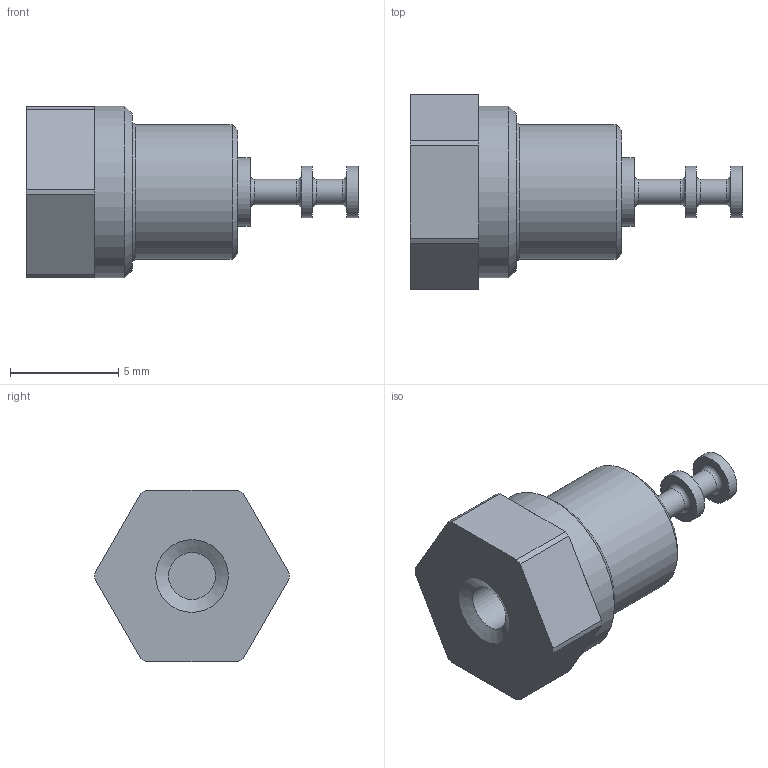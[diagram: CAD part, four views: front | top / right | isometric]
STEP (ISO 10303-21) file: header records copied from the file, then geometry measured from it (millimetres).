
FILE_DESCRIPTION(/* description */ (''),/* implementation_level */ '2;1');
FILE_NAME(/* name */ '\\Snap1\dwgs\Customer 3D Models\570\570-3648-01 Customer model.stp',/* time_stamp */ '2017-01-04T14:17:17+00:00',/* author */ ('paulk'),/* organization */ (''),/* preprocessor_version */ 'ST-DEVELOPER v15.2',/* originating_system */ 'Autodesk Inventor 2014',/* authorisation */ '');
FILE_SCHEMA (('CONFIG_CONTROL_DESIGN'));
Length unit declared in the file: millimetre
Products named in the file (1): 570-3648-01 Customer model
Bounding box: 15.32 x 9 x 7.92 mm (x, y, z)
Volume: 403.8 mm3; surface area: 386.2 mm2
Topology: 1 solids, 1 shells, 43 faces, 90 edges, 55 vertices
Faces by surface type: plane 20, cylinder 14, cone 5, torus 4
Full cylindrical faces by diameter (mm): 1.168 x2, 2.156 x1, 2.362 x2, 3.175 x1, 6.223 x1, 7.925 x1
Entity records: 1127 total; most frequent: DIRECTION 200, CARTESIAN_POINT 168, ORIENTED_EDGE 142, AXIS2_PLACEMENT_3D 85, EDGE_CURVE 71, EDGE_LOOP 66, VERTEX_POINT 53, STYLED_ITEM 44
